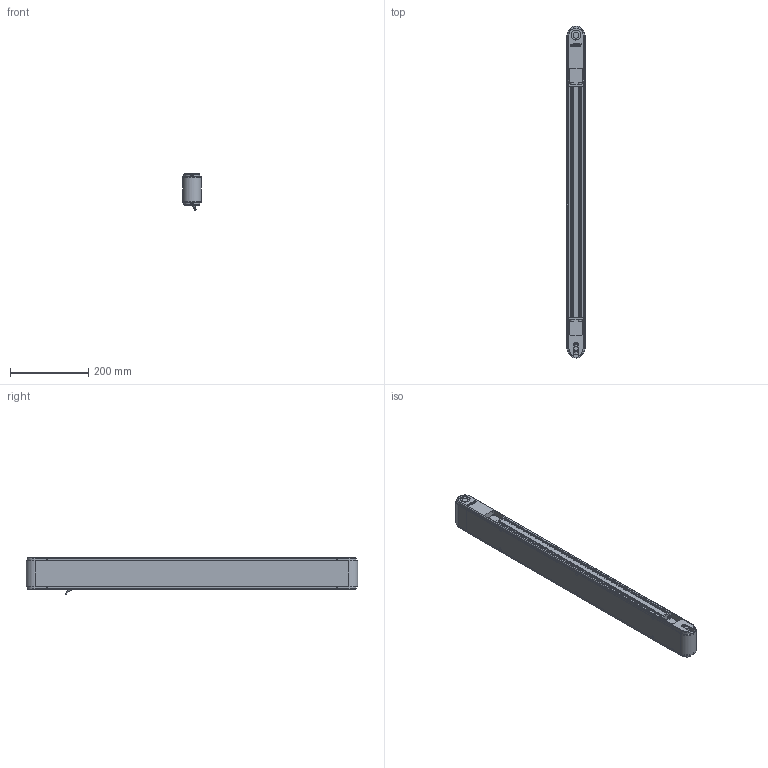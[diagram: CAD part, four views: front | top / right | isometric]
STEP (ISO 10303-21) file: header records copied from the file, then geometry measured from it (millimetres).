
FILE_DESCRIPTION(/* description */ (''),/* implementation_level */ '2;1');
FILE_NAME(/* name */ 'G:\DATEN\CAD\Förderband\Marketing\3D-Modelle (Standard)\FR-40-80\FR-40-80-800-K.stp',/* time_stamp */ '2019-05-08T08:18:42+02:00',/* author */ ('melanie.ochs'),/* organization */ (''),/* preprocessor_version */ 'ST-DEVELOPER v17',/* originating_system */ 'Autodesk Inventor 2019',/* authorisation */ '');
FILE_SCHEMA (('CONFIG_CONTROL_DESIGN'));
Length unit declared in the file: centimetre
Products named in the file (1): FR-40-80-800-K
Bounding box: 46.6 x 846.6 x 92.7 mm (x, y, z)
Volume: 1292960.2 mm3; surface area: 827617.1 mm2
Topology: 31 solids, 32 shells, 1005 faces, 2735 edges, 1860 vertices
Faces by surface type: plane 502, cylinder 283, bspline 122, cone 68, torus 30
Full cylindrical faces by diameter (mm): 1 x6, 4 x6, 4.3 x4, 4.64 x2, 4.917 x1, 5 x11, 5.5 x8, 6 x4, 6.773 x1, 8 x5, 8.3 x12, 8.5 x8, 8.773 x1, 10 x1, 11 x1, 12 x3, 15 x4, 20 x2, 25 x2, 28 x4, 44 x3
Entity records: 34222 total; most frequent: CARTESIAN_POINT 7956, ORIENTED_EDGE 5440, DIRECTION 4987, EDGE_CURVE 2720, VERTEX_POINT 1860, AXIS2_PLACEMENT_3D 1753, LINE 1481, VECTOR 1481
